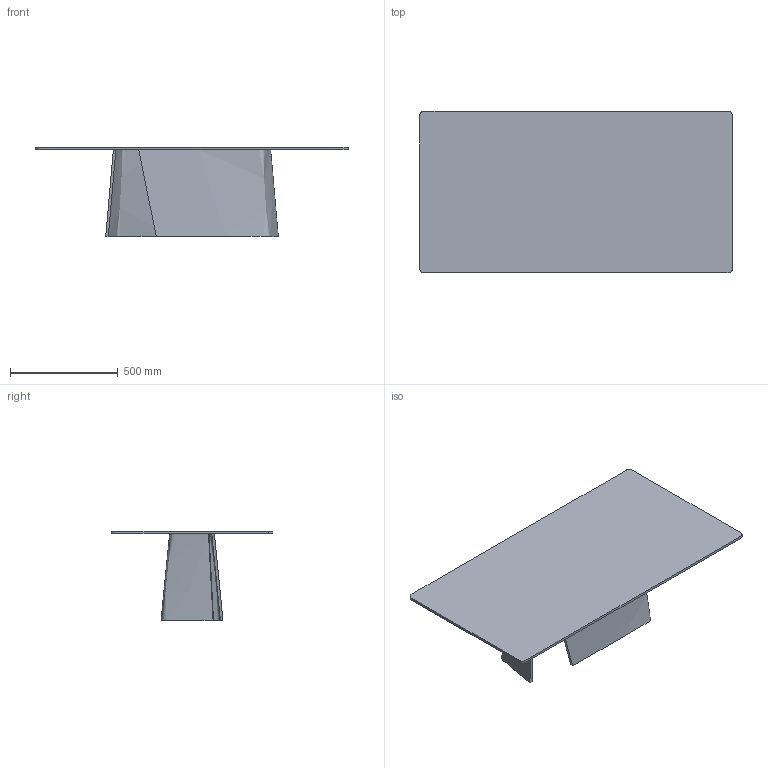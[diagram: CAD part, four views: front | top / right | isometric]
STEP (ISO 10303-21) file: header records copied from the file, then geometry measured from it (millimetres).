
FILE_DESCRIPTION(/* description */ (''),/* implementation_level */ '2;1');
FILE_NAME(/* name */ '500.601 - Accordo Tavolino rettangolare H42 145x75',/* time_stamp */ '2010-11-03T16:30:15+01:00',/* author */ (''),/* organization */ (''),/* preprocessor_version */ 'ST-DEVELOPER v10',/* originating_system */ '',/* authorisation */ '');
FILE_SCHEMA (('CONFIG_CONTROL_DESIGN'));
Length unit declared in the file: centimetre
Products named in the file (1): 1
Bounding box: 1450 x 750 x 417 mm (x, y, z)
Volume: 20721674.9 mm3; surface area: 3357801.8 mm2
Topology: 3 solids, 3 shells, 18 faces, 36 edges, 24 vertices
Faces by surface type: bspline 12, plane 6
Entity records: 726 total; most frequent: CARTESIAN_POINT 424, ORIENTED_EDGE 72, EDGE_CURVE 36, VERTEX_POINT 24, ADVANCED_FACE 18, FACE_OUTER_BOUND 18, EDGE_LOOP 18, DIRECTION 10
